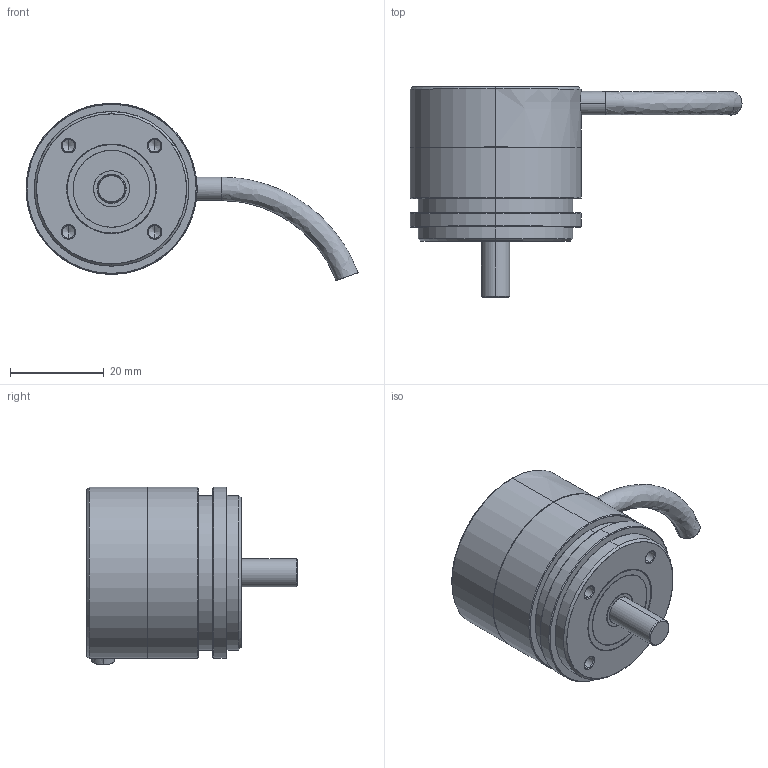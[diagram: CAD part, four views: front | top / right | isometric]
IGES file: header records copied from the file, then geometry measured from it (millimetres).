
Start section: SolidWorks IGES FILE using analytic representation for surfaces
Global section: file name: E:\MOJIDOK2006\projekti2006\3D-RE-RM-izdelki\RE36IP53radial-3D.IGS; native system: SolidWorks 99 by SolidWorks Corporation; preprocessor: Version 3.0; author: cerar; date: 1060905.150004; units: millimetre
Bounding box: 70.83 x 44.93 x 37.86 mm (x, y, z)
Surface area: 7169.9 mm2 (no closed solid volume)
Topology: 0 solids, 0 shells, 76 faces, 1555 edges, 1546 vertices
Faces by surface type: revolution 62, bspline 14
